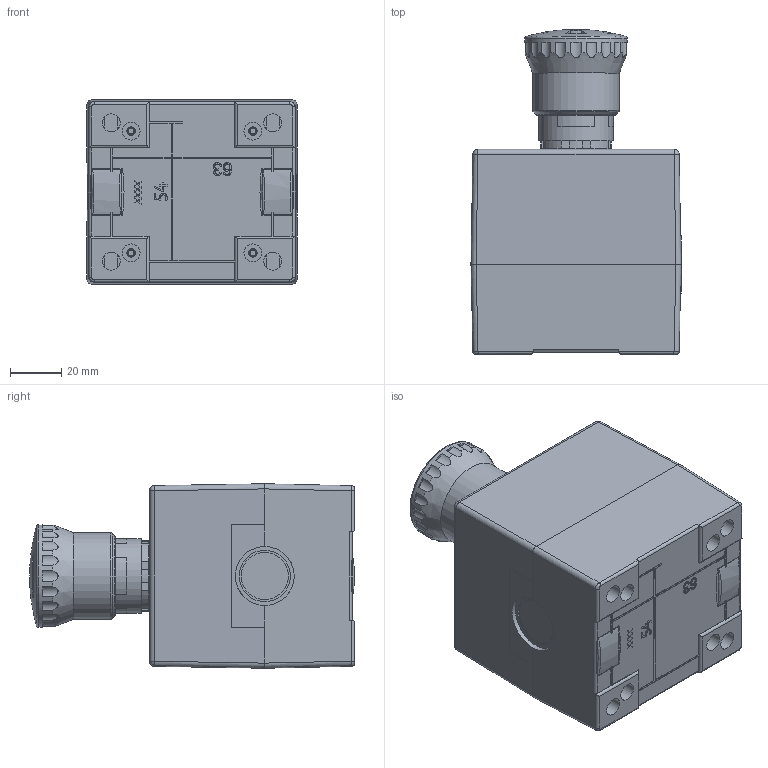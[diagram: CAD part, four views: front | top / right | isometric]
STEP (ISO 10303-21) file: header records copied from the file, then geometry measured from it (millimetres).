
FILE_DESCRIPTION(('Botoeira Tampa Amarela Montada c/ 1 Unidade de Comando C7EK02M'),'2;1');
FILE_NAME('E:\WorkFolder\Bibl\3DWeb\kp_c5qe1a005_step.stp','2026-04-27T09:30:03',('DIE'),('KAP Componentes Eletricos Ltda.'),'Autodesk Inventor 2011','Autodesk Inventor 2011','Direitos reservados. Proibido reproducao, cedencia ou revelacao de conteudo a terceiros, salvo com autorizacao.');
FILE_SCHEMA(('AUTOMOTIVE_DESIGN { 1 0 10303 214 1 1 1 1 }'));
Length unit declared in the file: millimetre
Products named in the file (16): C5QE1A005; C5QE1A; C5QE1_Caixa; C5QE1A_Tampa; C5QE1_Batoque; C5QE1_Parafuso; C7EK02M; E21PERF4731_Catalogo; VEGF121A_Catalogo; VEGP12H1A_Catalogo; E21BAC11_Catalogo; E2CP01S2V1_Catalogo_2015; E2CP02G2V1_Catalogo; Grav_SeriePeq_Pr; Grav_SerieGrande
Assembly tree (18 placements, depth 4):
  C5QE1A005
    C5QE1A
      C5QE1_Caixa
      C5QE1A_Tampa
      C5QE1_Batoque
      C5QE1_Parafuso  x4
    C7EK02M
      E21PERF4731_Catalogo
        E21PERF4731_Catalogo
        VEGF121A_Catalogo
        VEGP12H1A_Catalogo
      E21BAC11_Catalogo
      E2CP01S2V1_Catalogo_2015
      E2CP02G2V1_Catalogo
      Grav_SeriePeq_Pr
    Grav_SerieGrande
Bounding box: 82 x 126.8 x 72 mm (x, y, z)
Volume: 213845 mm3; surface area: 117214.1 mm2
Topology: 21 solids, 21 shells, 2479 faces, 6817 edges, 4426 vertices
Faces by surface type: plane 1520, cylinder 537, bspline 275, torus 74, sphere 43, cone 30
Full cylindrical faces by diameter (mm): 1.9 x3, 2.85 x48, 3.3 x4, 3.9 x4, 5 x4, 5.4 x4, 7 x8, 8 x4, 18.2 x1, 18.4 x1, 18.9 x1, 20 x2, 20.2 x6, 20.5 x1, 22 x2, 22.8 x1, 23 x2, 29 x1, 33.76 x1, 40 x1
Entity records: 79068 total; most frequent: CARTESIAN_POINT 21334, ORIENTED_EDGE 12360, DIRECTION 10928, EDGE_CURVE 6180, VECTOR 4128, LINE 4128, VERTEX_POINT 4068, AXIS2_PLACEMENT_3D 3400
